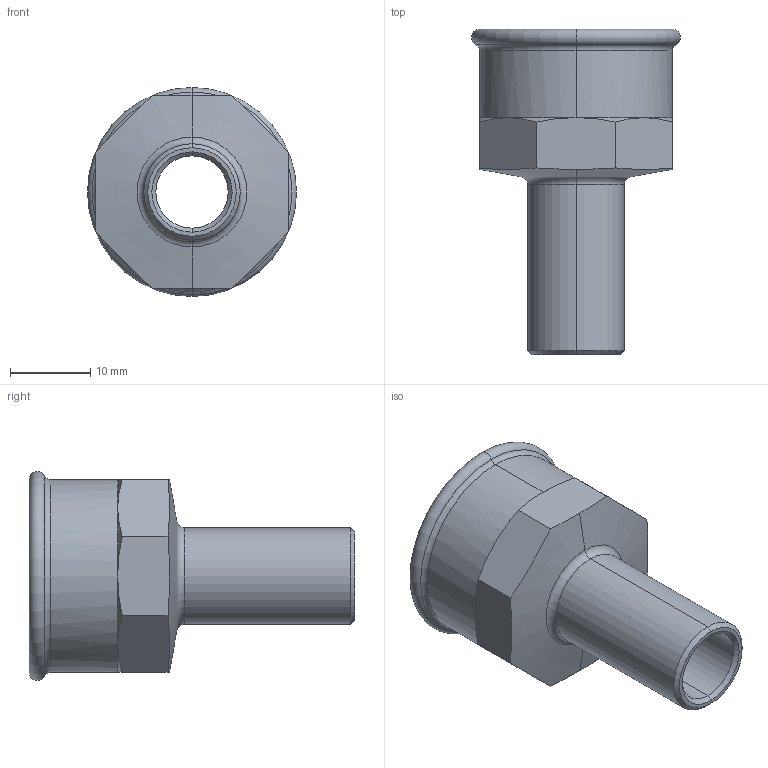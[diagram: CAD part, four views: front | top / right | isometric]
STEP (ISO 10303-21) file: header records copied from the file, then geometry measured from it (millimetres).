
FILE_DESCRIPTION (( 'STEP AP203' ), '1' );
FILE_NAME ('SP4281G Ø12 1-2.STEP', '2017-04-26T09:12:07', ( '' ), ( '' ), 'SwSTEP 2.0', 'SolidWorks 2016', '' );
FILE_SCHEMA (( 'CONFIG_CONTROL_DESIGN' ));
Length unit declared in the file: millimetre
Products named in the file (1): SP4281G Ø12 1-2
Bounding box: 26 x 40.5 x 26 mm (x, y, z)
Volume: 5161.8 mm3; surface area: 4595.3 mm2
Topology: 1 solids, 1 shells, 41 faces, 90 edges, 52 vertices
Faces by surface type: cone 16, plane 11, cylinder 8, torus 6
Entity records: 1259 total; most frequent: CARTESIAN_POINT 302, DIRECTION 188, ORIENTED_EDGE 180, EDGE_CURVE 90, AXIS2_PLACEMENT_3D 82, VERTEX_POINT 52, EDGE_LOOP 44, ADVANCED_FACE 41
